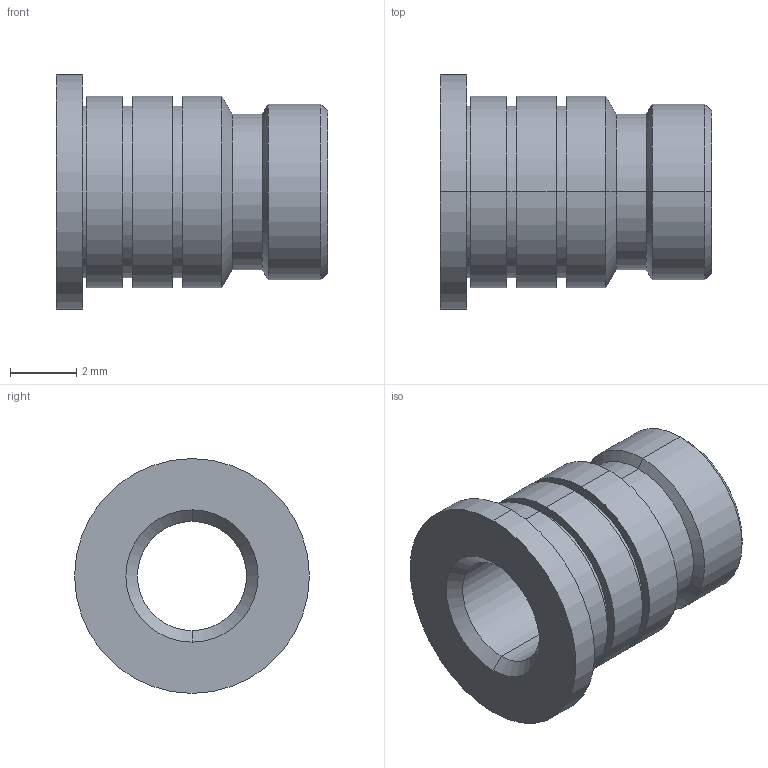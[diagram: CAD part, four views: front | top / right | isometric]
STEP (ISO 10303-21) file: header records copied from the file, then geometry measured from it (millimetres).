
FILE_DESCRIPTION (( 'STEP AP203' ), '1' );
FILE_NAME ('FSUK-MUH-M04-S.STEP', '2021-04-15T13:22:38', ( '' ), ( '' ), 'SwSTEP 2.0', 'SolidWorks 2021', '' );
FILE_SCHEMA (( 'CONFIG_CONTROL_DESIGN' ));
Length unit declared in the file: millimetre
Products named in the file (1): FSUK-MUH-M04-S
Bounding box: 8.2 x 7.1 x 7.1 mm (x, y, z)
Volume: 133 mm3; surface area: 320.3 mm2
Topology: 1 solids, 1 shells, 38 faces, 76 edges, 46 vertices
Faces by surface type: cylinder 20, cone 10, plane 8
Entity records: 1075 total; most frequent: DIRECTION 200, CARTESIAN_POINT 161, ORIENTED_EDGE 152, AXIS2_PLACEMENT_3D 85, EDGE_CURVE 76, EDGE_LOOP 46, CIRCLE 46, VERTEX_POINT 46
